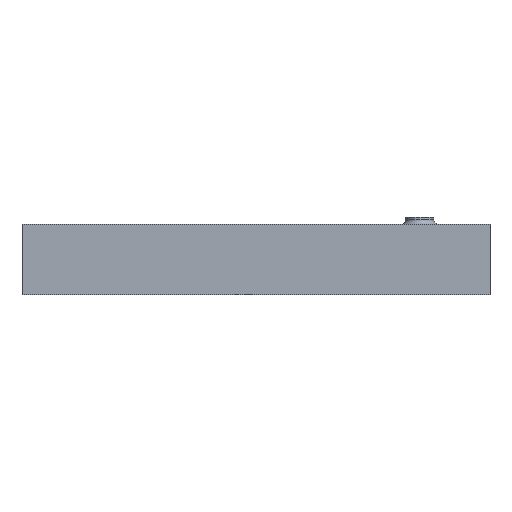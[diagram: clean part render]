
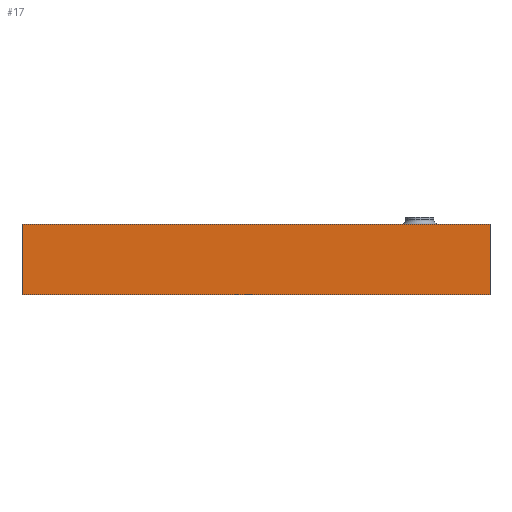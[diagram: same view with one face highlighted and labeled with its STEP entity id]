
A CAD part, left-side view. The second image highlights one B-rep face of the part: STEP entity #17.
In plain terms, the highlighted planar face has unit normal (-1, 0, 0).
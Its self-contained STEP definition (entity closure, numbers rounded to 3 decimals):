
#17 = ADVANCED_FACE('',(#18),#32,.F.);
#18 = FACE_BOUND('',#19,.F.);
#19 = EDGE_LOOP('',(#20,#55,#83,#111));
#20 = ORIENTED_EDGE('',*,*,#21,.F.);
#21 = EDGE_CURVE('',#22,#24,#26,.T.);
#22 = VERTEX_POINT('',#23);
#23 = CARTESIAN_POINT('',(0.,0.,0.));
#24 = VERTEX_POINT('',#25);
#25 = CARTESIAN_POINT('',(0.,0.,30.));
#26 = SURFACE_CURVE('',#27,(#31,#43),.PCURVE_S1.);
#27 = LINE('',#28,#29);
#28 = CARTESIAN_POINT('',(0.,0.,0.));
#29 = VECTOR('',#30,1.);
#30 = DIRECTION('',(0.,0.,1.));
#31 = PCURVE('',#32,#37);
#32 = PLANE('',#33);
#33 = AXIS2_PLACEMENT_3D('',#34,#35,#36);
#34 = CARTESIAN_POINT('',(0.,0.,0.));
#35 = DIRECTION('',(1.,0.,-0.));
#36 = DIRECTION('',(0.,0.,1.));
#37 = DEFINITIONAL_REPRESENTATION('',(#38),#42);
#38 = LINE('',#39,#40);
#39 = CARTESIAN_POINT('',(0.,0.));
#40 = VECTOR('',#41,1.);
#41 = DIRECTION('',(1.,0.));
#42 = ( GEOMETRIC_REPRESENTATION_CONTEXT(2) 
PARAMETRIC_REPRESENTATION_CONTEXT() REPRESENTATION_CONTEXT('2D SPACE',''
  ) );
#43 = PCURVE('',#44,#49);
#44 = PLANE('',#45);
#45 = AXIS2_PLACEMENT_3D('',#46,#47,#48);
#46 = CARTESIAN_POINT('',(0.,0.,0.));
#47 = DIRECTION('',(-0.,1.,0.));
#48 = DIRECTION('',(0.,0.,1.));
#49 = DEFINITIONAL_REPRESENTATION('',(#50),#54);
#50 = LINE('',#51,#52);
#51 = CARTESIAN_POINT('',(0.,0.));
#52 = VECTOR('',#53,1.);
#53 = DIRECTION('',(1.,0.));
#54 = ( GEOMETRIC_REPRESENTATION_CONTEXT(2) 
PARAMETRIC_REPRESENTATION_CONTEXT() REPRESENTATION_CONTEXT('2D SPACE',''
  ) );
#55 = ORIENTED_EDGE('',*,*,#56,.T.);
#56 = EDGE_CURVE('',#22,#57,#59,.T.);
#57 = VERTEX_POINT('',#58);
#58 = CARTESIAN_POINT('',(0.,200.,0.));
#59 = SURFACE_CURVE('',#60,(#64,#71),.PCURVE_S1.);
#60 = LINE('',#61,#62);
#61 = CARTESIAN_POINT('',(0.,0.,0.));
#62 = VECTOR('',#63,1.);
#63 = DIRECTION('',(-0.,1.,0.));
#64 = PCURVE('',#32,#65);
#65 = DEFINITIONAL_REPRESENTATION('',(#66),#70);
#66 = LINE('',#67,#68);
#67 = CARTESIAN_POINT('',(0.,0.));
#68 = VECTOR('',#69,1.);
#69 = DIRECTION('',(0.,-1.));
#70 = ( GEOMETRIC_REPRESENTATION_CONTEXT(2) 
PARAMETRIC_REPRESENTATION_CONTEXT() REPRESENTATION_CONTEXT('2D SPACE',''
  ) );
#71 = PCURVE('',#72,#77);
#72 = PLANE('',#73);
#73 = AXIS2_PLACEMENT_3D('',#74,#75,#76);
#74 = CARTESIAN_POINT('',(0.,0.,0.));
#75 = DIRECTION('',(0.,0.,1.));
#76 = DIRECTION('',(1.,0.,-0.));
#77 = DEFINITIONAL_REPRESENTATION('',(#78),#82);
#78 = LINE('',#79,#80);
#79 = CARTESIAN_POINT('',(0.,0.));
#80 = VECTOR('',#81,1.);
#81 = DIRECTION('',(0.,1.));
#82 = ( GEOMETRIC_REPRESENTATION_CONTEXT(2) 
PARAMETRIC_REPRESENTATION_CONTEXT() REPRESENTATION_CONTEXT('2D SPACE',''
  ) );
#83 = ORIENTED_EDGE('',*,*,#84,.T.);
#84 = EDGE_CURVE('',#57,#85,#87,.T.);
#85 = VERTEX_POINT('',#86);
#86 = CARTESIAN_POINT('',(0.,200.,30.));
#87 = SURFACE_CURVE('',#88,(#92,#99),.PCURVE_S1.);
#88 = LINE('',#89,#90);
#89 = CARTESIAN_POINT('',(0.,200.,0.));
#90 = VECTOR('',#91,1.);
#91 = DIRECTION('',(0.,0.,1.));
#92 = PCURVE('',#32,#93);
#93 = DEFINITIONAL_REPRESENTATION('',(#94),#98);
#94 = LINE('',#95,#96);
#95 = CARTESIAN_POINT('',(0.,-200.));
#96 = VECTOR('',#97,1.);
#97 = DIRECTION('',(1.,0.));
#98 = ( GEOMETRIC_REPRESENTATION_CONTEXT(2) 
PARAMETRIC_REPRESENTATION_CONTEXT() REPRESENTATION_CONTEXT('2D SPACE',''
  ) );
#99 = PCURVE('',#100,#105);
#100 = PLANE('',#101);
#101 = AXIS2_PLACEMENT_3D('',#102,#103,#104);
#102 = CARTESIAN_POINT('',(0.,200.,0.));
#103 = DIRECTION('',(-0.,1.,0.));
#104 = DIRECTION('',(0.,0.,1.));
#105 = DEFINITIONAL_REPRESENTATION('',(#106),#110);
#106 = LINE('',#107,#108);
#107 = CARTESIAN_POINT('',(0.,0.));
#108 = VECTOR('',#109,1.);
#109 = DIRECTION('',(1.,0.));
#110 = ( GEOMETRIC_REPRESENTATION_CONTEXT(2) 
PARAMETRIC_REPRESENTATION_CONTEXT() REPRESENTATION_CONTEXT('2D SPACE',''
  ) );
#111 = ORIENTED_EDGE('',*,*,#112,.F.);
#112 = EDGE_CURVE('',#24,#85,#113,.T.);
#113 = SURFACE_CURVE('',#114,(#118,#125),.PCURVE_S1.);
#114 = LINE('',#115,#116);
#115 = CARTESIAN_POINT('',(0.,0.,30.));
#116 = VECTOR('',#117,1.);
#117 = DIRECTION('',(-0.,1.,0.));
#118 = PCURVE('',#32,#119);
#119 = DEFINITIONAL_REPRESENTATION('',(#120),#124);
#120 = LINE('',#121,#122);
#121 = CARTESIAN_POINT('',(30.,0.));
#122 = VECTOR('',#123,1.);
#123 = DIRECTION('',(0.,-1.));
#124 = ( GEOMETRIC_REPRESENTATION_CONTEXT(2) 
PARAMETRIC_REPRESENTATION_CONTEXT() REPRESENTATION_CONTEXT('2D SPACE',''
  ) );
#125 = PCURVE('',#126,#131);
#126 = PLANE('',#127);
#127 = AXIS2_PLACEMENT_3D('',#128,#129,#130);
#128 = CARTESIAN_POINT('',(0.,0.,30.));
#129 = DIRECTION('',(0.,0.,1.));
#130 = DIRECTION('',(1.,0.,-0.));
#131 = DEFINITIONAL_REPRESENTATION('',(#132),#136);
#132 = LINE('',#133,#134);
#133 = CARTESIAN_POINT('',(0.,0.));
#134 = VECTOR('',#135,1.);
#135 = DIRECTION('',(0.,1.));
#136 = ( GEOMETRIC_REPRESENTATION_CONTEXT(2) 
PARAMETRIC_REPRESENTATION_CONTEXT() REPRESENTATION_CONTEXT('2D SPACE',''
  ) );
